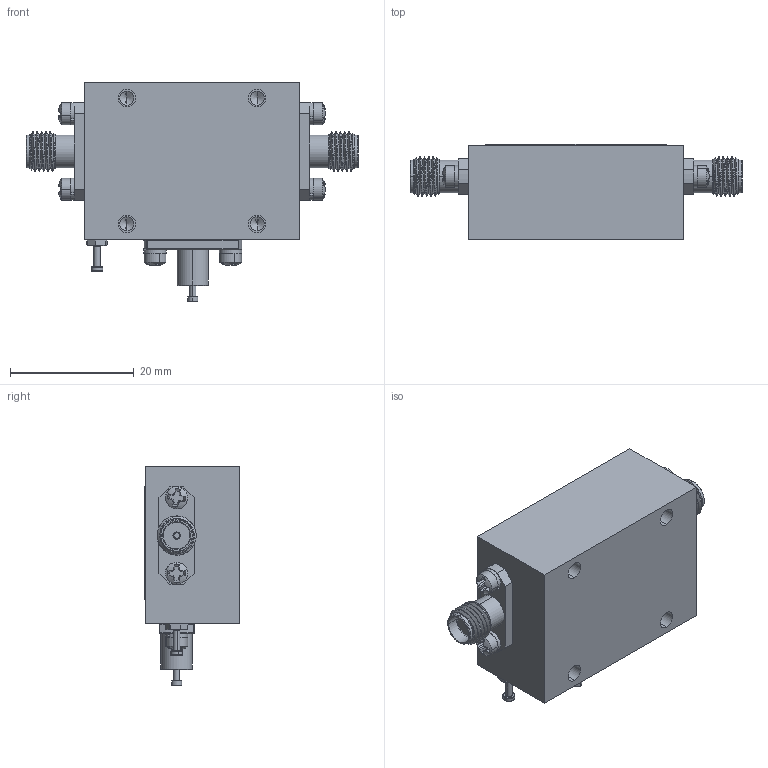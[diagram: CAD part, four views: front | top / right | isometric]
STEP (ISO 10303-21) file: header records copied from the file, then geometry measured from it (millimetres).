
FILE_DESCRIPTION (( 'STEP AP214' ), '1' );
FILE_NAME ('3D Model.STEP', '2024-08-05T19:33:00', ( '' ), ( '' ), 'SwSTEP 2.0', 'SolidWorks 2023', '' );
FILE_SCHEMA (( 'AUTOMOTIVE_DESIGN' ));
Length unit declared in the file: inch
Products named in the file (1): 3D Model
Bounding box: 53.7 x 15.34 x 35.43 mm (x, y, z)
Volume: 14407 mm3; surface area: 7013.7 mm2
Topology: 27 solids, 27 shells, 824 faces, 3055 edges, 2450 vertices
Faces by surface type: plane 428, cylinder 187, cone 99, sphere 47, torus 45, bspline 18
Entity records: 42280 total; most frequent: CARTESIAN_POINT 15905, ORIENTED_EDGE 6050, DIRECTION 4668, EDGE_CURVE 3025, VERTEX_POINT 2450, AXIS2_PLACEMENT_3D 1588, VECTOR 1492, LINE 1492
